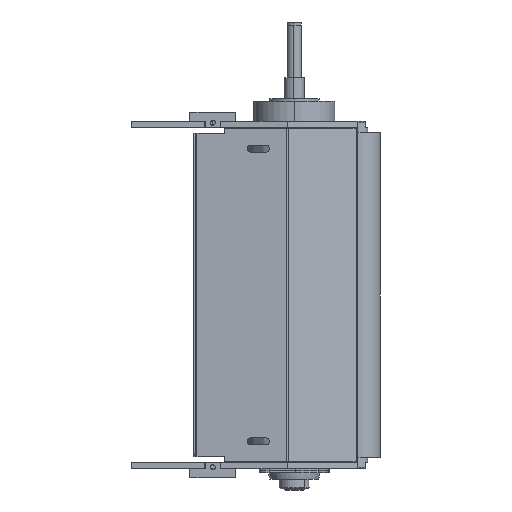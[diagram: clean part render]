
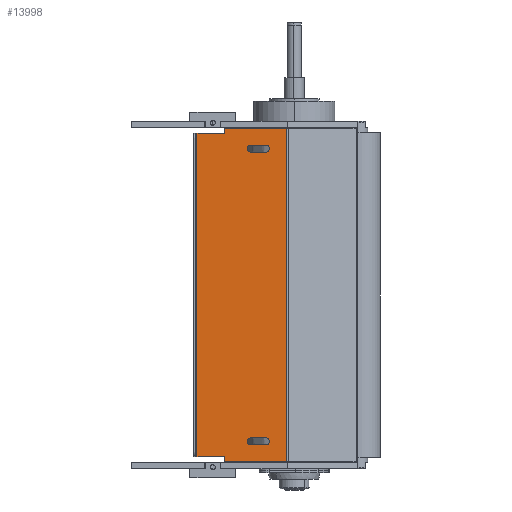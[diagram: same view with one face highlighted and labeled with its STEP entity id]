
A CAD part, left-side view. The second image highlights one B-rep face of the part: STEP entity #13998.
In plain terms, the highlighted planar face has unit normal (-1, 0, 0).
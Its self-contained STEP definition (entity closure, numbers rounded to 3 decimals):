
#98 = VECTOR ( 'NONE', #8047, 1000. ) ;
#487 = CARTESIAN_POINT ( 'NONE',  ( -90., 158.5, -159.5 ) ) ;
#600 = LINE ( 'NONE', #2100, #3322 ) ;
#987 = FACE_OUTER_BOUND ( 'NONE', #4577, .T. ) ;
#1269 = DIRECTION ( 'NONE',  ( 0., 0., -1. ) ) ;
#1280 = EDGE_CURVE ( 'NONE', #19169, #4072, #14369, .T. ) ;
#1404 = CIRCLE ( 'NONE', #19210, 3.5 ) ;
#1454 = ORIENTED_EDGE ( 'NONE', *, *, #11383, .T. ) ;
#1538 = EDGE_CURVE ( 'NONE', #16863, #14075, #13131, .T. ) ;
#1606 = ORIENTED_EDGE ( 'NONE', *, *, #1280, .T. ) ;
#1663 = AXIS2_PLACEMENT_3D ( 'NONE', #18699, #9141, #12223 ) ;
#1691 = EDGE_CURVE ( 'NONE', #14075, #9995, #7875, .T. ) ;
#1760 = CARTESIAN_POINT ( 'NONE',  ( -90., 70.086, 164.5 ) ) ;
#1812 = EDGE_CURVE ( 'NONE', #8138, #3246, #12395, .T. ) ;
#1907 = CARTESIAN_POINT ( 'NONE',  ( -90., 70.086, -164.5 ) ) ;
#2023 = LINE ( 'NONE', #13655, #2515 ) ;
#2100 = CARTESIAN_POINT ( 'NONE',  ( -90., 160., -159.5 ) ) ;
#2180 = DIRECTION ( 'NONE',  ( 0., 0., -1. ) ) ;
#2413 = CARTESIAN_POINT ( 'NONE',  ( -90., 131.5, 164.5 ) ) ;
#2515 = VECTOR ( 'NONE', #10429, 1000. ) ;
#2571 = EDGE_CURVE ( 'NONE', #5295, #16930, #5321, .T. ) ;
#2593 = ORIENTED_EDGE ( 'NONE', *, *, #20499, .T. ) ;
#2674 = CARTESIAN_POINT ( 'NONE',  ( -90., 105.5, 144.5 ) ) ;
#3167 = CARTESIAN_POINT ( 'NONE',  ( -90., 105.5, -144.5 ) ) ;
#3246 = VERTEX_POINT ( 'NONE', #6072 ) ;
#3322 = VECTOR ( 'NONE', #16629, 1000. ) ;
#3655 = DIRECTION ( 'NONE',  ( 0., 0., -1. ) ) ;
#3954 = CARTESIAN_POINT ( 'NONE',  ( -90., 158.5, 159.5 ) ) ;
#4029 = LINE ( 'NONE', #5442, #17788 ) ;
#4040 = EDGE_CURVE ( 'NONE', #8265, #10299, #8019, .T. ) ;
#4072 = VERTEX_POINT ( 'NONE', #1907 ) ;
#4132 = VERTEX_POINT ( 'NONE', #1760 ) ;
#4577 = EDGE_LOOP ( 'NONE', ( #8709, #2593, #15193, #11227, #14433, #1606, #18039, #13445 ) ) ;
#5295 = VERTEX_POINT ( 'NONE', #7178 ) ;
#5321 = LINE ( 'NONE', #20465, #17570 ) ;
#5343 = DIRECTION ( 'NONE',  ( 0., 0., -1. ) ) ;
#5359 = VECTOR ( 'NONE', #15176, 1000. ) ;
#5442 = CARTESIAN_POINT ( 'NONE',  ( -90., 70.086, 164.5 ) ) ;
#5616 = CARTESIAN_POINT ( 'NONE',  ( -90., 160., 164.5 ) ) ;
#5973 = CARTESIAN_POINT ( 'NONE',  ( -90., 160., 141. ) ) ;
#6072 = CARTESIAN_POINT ( 'NONE',  ( -90., 90.5, 148. ) ) ;
#6175 = CARTESIAN_POINT ( 'NONE',  ( -90., 131.5, -164.5 ) ) ;
#6459 = EDGE_CURVE ( 'NONE', #12237, #16863, #13590, .T. ) ;
#6664 = CARTESIAN_POINT ( 'NONE',  ( -90., 160., -141. ) ) ;
#6747 = AXIS2_PLACEMENT_3D ( 'NONE', #3167, #14211, #14420 ) ;
#6826 = ORIENTED_EDGE ( 'NONE', *, *, #15691, .T. ) ;
#6890 = CARTESIAN_POINT ( 'NONE',  ( -90., 105.5, -148. ) ) ;
#7023 = AXIS2_PLACEMENT_3D ( 'NONE', #5616, #14939, #5343 ) ;
#7036 = VERTEX_POINT ( 'NONE', #19612 ) ;
#7120 = VECTOR ( 'NONE', #10374, 1000. ) ;
#7176 = CARTESIAN_POINT ( 'NONE',  ( -90., 160., -164.5 ) ) ;
#7178 = CARTESIAN_POINT ( 'NONE',  ( -90., 131.5, 164.5 ) ) ;
#7180 = CARTESIAN_POINT ( 'NONE',  ( -90., 90.5, -148. ) ) ;
#7415 = CARTESIAN_POINT ( 'NONE',  ( -90., 90.5, -141. ) ) ;
#7875 = LINE ( 'NONE', #6664, #19117 ) ;
#8019 = LINE ( 'NONE', #10012, #17268 ) ;
#8047 = DIRECTION ( 'NONE',  ( 0., 1., 0. ) ) ;
#8138 = VERTEX_POINT ( 'NONE', #8493 ) ;
#8265 = VERTEX_POINT ( 'NONE', #3954 ) ;
#8307 = EDGE_LOOP ( 'NONE', ( #15478, #9099, #12652, #10075 ) ) ;
#8493 = CARTESIAN_POINT ( 'NONE',  ( -90., 105.5, 148. ) ) ;
#8709 = ORIENTED_EDGE ( 'NONE', *, *, #2571, .T. ) ;
#8968 = CARTESIAN_POINT ( 'NONE',  ( -90., 105.5, -141. ) ) ;
#9099 = ORIENTED_EDGE ( 'NONE', *, *, #9907, .T. ) ;
#9141 = DIRECTION ( 'NONE',  ( 1., 0., 0. ) ) ;
#9172 = DIRECTION ( 'NONE',  ( 0., 0., -1. ) ) ;
#9179 = DIRECTION ( 'NONE',  ( 0., 0., -1. ) ) ;
#9204 = CARTESIAN_POINT ( 'NONE',  ( -90., 160., 159.5 ) ) ;
#9797 = DIRECTION ( 'NONE',  ( 0., -1., 0. ) ) ;
#9907 = EDGE_CURVE ( 'NONE', #9995, #12237, #11701, .T. ) ;
#9995 = VERTEX_POINT ( 'NONE', #7415 ) ;
#10012 = CARTESIAN_POINT ( 'NONE',  ( -90., 158.5, 164.5 ) ) ;
#10075 = ORIENTED_EDGE ( 'NONE', *, *, #1538, .T. ) ;
#10280 = CARTESIAN_POINT ( 'NONE',  ( -90., 160., 148. ) ) ;
#10299 = VERTEX_POINT ( 'NONE', #487 ) ;
#10374 = DIRECTION ( 'NONE',  ( 0., -1., 0. ) ) ;
#10429 = DIRECTION ( 'NONE',  ( 0., -1., 0. ) ) ;
#11227 = ORIENTED_EDGE ( 'NONE', *, *, #18170, .T. ) ;
#11377 = ORIENTED_EDGE ( 'NONE', *, *, #1812, .T. ) ;
#11383 = EDGE_CURVE ( 'NONE', #7036, #8138, #11649, .T. ) ;
#11532 = VECTOR ( 'NONE', #19385, 1000. ) ;
#11649 = CIRCLE ( 'NONE', #20664, 3.5 ) ;
#11701 = CIRCLE ( 'NONE', #1663, 3.5 ) ;
#11718 = FACE_BOUND ( 'NONE', #8307, .T. ) ;
#11882 = CARTESIAN_POINT ( 'NONE',  ( -90., 90.5, 144.5 ) ) ;
#11908 = PLANE ( 'NONE',  #7023 ) ;
#11943 = DIRECTION ( 'NONE',  ( 0., 0., -1. ) ) ;
#11966 = CARTESIAN_POINT ( 'NONE',  ( -90., 131.5, 159.5 ) ) ;
#12223 = DIRECTION ( 'NONE',  ( 0., 0., -1. ) ) ;
#12237 = VERTEX_POINT ( 'NONE', #7180 ) ;
#12318 = EDGE_CURVE ( 'NONE', #16911, #19169, #20010, .T. ) ;
#12395 = LINE ( 'NONE', #10280, #5359 ) ;
#12652 = ORIENTED_EDGE ( 'NONE', *, *, #6459, .T. ) ;
#12840 = EDGE_CURVE ( 'NONE', #5295, #4132, #2023, .T. ) ;
#13131 = CIRCLE ( 'NONE', #6747, 3.5 ) ;
#13291 = LINE ( 'NONE', #9204, #11532 ) ;
#13445 = ORIENTED_EDGE ( 'NONE', *, *, #12840, .F. ) ;
#13590 = LINE ( 'NONE', #17831, #98 ) ;
#13655 = CARTESIAN_POINT ( 'NONE',  ( -90., 160., 164.5 ) ) ;
#13853 = DIRECTION ( 'NONE',  ( 1., 0., 0. ) ) ;
#13998 = ADVANCED_FACE ( 'NONE', ( #11718, #15231, #987 ), #11908, .F. ) ;
#14075 = VERTEX_POINT ( 'NONE', #8968 ) ;
#14211 = DIRECTION ( 'NONE',  ( 1., 0., 0. ) ) ;
#14225 = VERTEX_POINT ( 'NONE', #15848 ) ;
#14369 = LINE ( 'NONE', #7176, #7120 ) ;
#14420 = DIRECTION ( 'NONE',  ( 0., 0., -1. ) ) ;
#14433 = ORIENTED_EDGE ( 'NONE', *, *, #12318, .T. ) ;
#14434 = EDGE_LOOP ( 'NONE', ( #11377, #6826, #15214, #1454 ) ) ;
#14804 = EDGE_CURVE ( 'NONE', #14225, #7036, #18192, .T. ) ;
#14939 = DIRECTION ( 'NONE',  ( 1., 0., 0. ) ) ;
#15176 = DIRECTION ( 'NONE',  ( 0., -1., 0. ) ) ;
#15193 = ORIENTED_EDGE ( 'NONE', *, *, #4040, .T. ) ;
#15214 = ORIENTED_EDGE ( 'NONE', *, *, #14804, .T. ) ;
#15231 = FACE_BOUND ( 'NONE', #14434, .T. ) ;
#15478 = ORIENTED_EDGE ( 'NONE', *, *, #1691, .T. ) ;
#15691 = EDGE_CURVE ( 'NONE', #3246, #14225, #1404, .T. ) ;
#15848 = CARTESIAN_POINT ( 'NONE',  ( -90., 90.5, 141. ) ) ;
#16279 = VECTOR ( 'NONE', #9179, 1000. ) ;
#16302 = CARTESIAN_POINT ( 'NONE',  ( -90., 131.5, -159.5 ) ) ;
#16629 = DIRECTION ( 'NONE',  ( 0., -1., 0. ) ) ;
#16764 = DIRECTION ( 'NONE',  ( 1., 0., 0. ) ) ;
#16863 = VERTEX_POINT ( 'NONE', #6890 ) ;
#16911 = VERTEX_POINT ( 'NONE', #16302 ) ;
#16930 = VERTEX_POINT ( 'NONE', #11966 ) ;
#17268 = VECTOR ( 'NONE', #3655, 1000. ) ;
#17570 = VECTOR ( 'NONE', #9172, 1000. ) ;
#17788 = VECTOR ( 'NONE', #2180, 1000. ) ;
#17831 = CARTESIAN_POINT ( 'NONE',  ( -90., 160., -148. ) ) ;
#18039 = ORIENTED_EDGE ( 'NONE', *, *, #20162, .F. ) ;
#18170 = EDGE_CURVE ( 'NONE', #10299, #16911, #600, .T. ) ;
#18192 = LINE ( 'NONE', #5973, #20671 ) ;
#18699 = CARTESIAN_POINT ( 'NONE',  ( -90., 90.5, -144.5 ) ) ;
#19117 = VECTOR ( 'NONE', #9797, 1000. ) ;
#19169 = VERTEX_POINT ( 'NONE', #6175 ) ;
#19210 = AXIS2_PLACEMENT_3D ( 'NONE', #11882, #16764, #11943 ) ;
#19385 = DIRECTION ( 'NONE',  ( 0., 1., 0. ) ) ;
#19612 = CARTESIAN_POINT ( 'NONE',  ( -90., 105.5, 141. ) ) ;
#20010 = LINE ( 'NONE', #2413, #16279 ) ;
#20162 = EDGE_CURVE ( 'NONE', #4132, #4072, #4029, .T. ) ;
#20465 = CARTESIAN_POINT ( 'NONE',  ( -90., 131.5, 164.5 ) ) ;
#20485 = DIRECTION ( 'NONE',  ( 0., 1., 0. ) ) ;
#20499 = EDGE_CURVE ( 'NONE', #16930, #8265, #13291, .T. ) ;
#20664 = AXIS2_PLACEMENT_3D ( 'NONE', #2674, #13853, #1269 ) ;
#20671 = VECTOR ( 'NONE', #20485, 1000. ) ;
